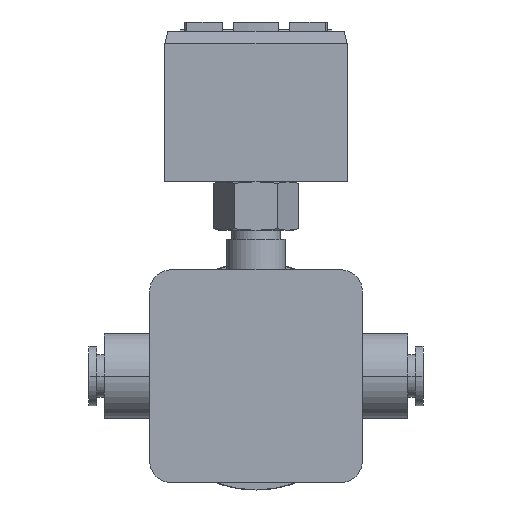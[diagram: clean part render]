
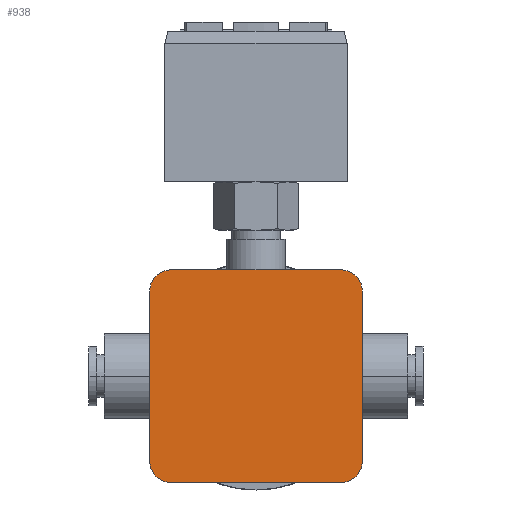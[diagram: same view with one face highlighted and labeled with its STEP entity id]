
A CAD part, front view. The second image highlights one B-rep face of the part: STEP entity #938.
In plain terms, the highlighted planar face has unit normal (0, -1, 0).
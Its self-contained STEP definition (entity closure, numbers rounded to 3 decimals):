
#78 = DIRECTION ( 'NONE',  ( 1., 0., 0. ) ) ;
#682 = ORIENTED_EDGE ( 'NONE', *, *, #3288, .F. ) ;
#832 = CARTESIAN_POINT ( 'NONE',  ( 17.5, -21., 14. ) ) ;
#938 = ADVANCED_FACE ( 'NONE', ( #9146 ), #1819, .F. ) ;
#1131 = CARTESIAN_POINT ( 'NONE',  ( 17.5, -21., 14. ) ) ;
#1132 = ORIENTED_EDGE ( 'NONE', *, *, #2328, .F. ) ;
#1147 = DIRECTION ( 'NONE',  ( 1., 0., 0. ) ) ;
#1149 = CARTESIAN_POINT ( 'NONE',  ( -17.5, -21., 14. ) ) ;
#1465 = CARTESIAN_POINT ( 'NONE',  ( 14., -21., -17.5 ) ) ;
#1569 = CARTESIAN_POINT ( 'NONE',  ( -14., -21., 17.5 ) ) ;
#1757 = EDGE_CURVE ( 'NONE', #7984, #3694, #4811, .T. ) ;
#1819 = PLANE ( 'NONE',  #6041 ) ;
#2216 = CIRCLE ( 'NONE', #10652, 3.5 ) ;
#2322 = CARTESIAN_POINT ( 'NONE',  ( 14., -21., 17.5 ) ) ;
#2328 = EDGE_CURVE ( 'NONE', #3832, #2704, #3002, .T. ) ;
#2416 = EDGE_CURVE ( 'NONE', #2704, #5976, #5053, .T. ) ;
#2631 = DIRECTION ( 'NONE',  ( 1., 0., 0. ) ) ;
#2646 = EDGE_CURVE ( 'NONE', #4552, #4117, #6127, .T. ) ;
#2704 = VERTEX_POINT ( 'NONE', #2322 ) ;
#2851 = EDGE_CURVE ( 'NONE', #4117, #3832, #5589, .T. ) ;
#3000 = AXIS2_PLACEMENT_3D ( 'NONE', #5124, #10701, #7897 ) ;
#3002 = LINE ( 'NONE', #10149, #7509 ) ;
#3262 = DIRECTION ( 'NONE',  ( 0., 0., 1. ) ) ;
#3288 = EDGE_CURVE ( 'NONE', #5976, #7984, #3811, .T. ) ;
#3584 = VERTEX_POINT ( 'NONE', #10836 ) ;
#3626 = CARTESIAN_POINT ( 'NONE',  ( -14., -21., -14. ) ) ;
#3694 = VERTEX_POINT ( 'NONE', #4776 ) ;
#3811 = LINE ( 'NONE', #1131, #4849 ) ;
#3832 = VERTEX_POINT ( 'NONE', #1569 ) ;
#3938 = CARTESIAN_POINT ( 'NONE',  ( -17.5, -21., -14. ) ) ;
#4117 = VERTEX_POINT ( 'NONE', #1149 ) ;
#4552 = VERTEX_POINT ( 'NONE', #3938 ) ;
#4755 = CARTESIAN_POINT ( 'NONE',  ( 14., -21., -14. ) ) ;
#4776 = CARTESIAN_POINT ( 'NONE',  ( 14., -21., -17.5 ) ) ;
#4786 = CARTESIAN_POINT ( 'NONE',  ( 17.5, -21., -14. ) ) ;
#4801 = DIRECTION ( 'NONE',  ( 1., 0., 0. ) ) ;
#4811 = CIRCLE ( 'NONE', #5552, 3.5 ) ;
#4849 = VECTOR ( 'NONE', #8396, 1000. ) ;
#5053 = CIRCLE ( 'NONE', #3000, 3.5 ) ;
#5124 = CARTESIAN_POINT ( 'NONE',  ( 14., -21., 14. ) ) ;
#5552 = AXIS2_PLACEMENT_3D ( 'NONE', #4755, #8117, #7237 ) ;
#5589 = CIRCLE ( 'NONE', #7098, 3.5 ) ;
#5917 = LINE ( 'NONE', #1465, #8287 ) ;
#5973 = CARTESIAN_POINT ( 'NONE',  ( -14., -21., -14. ) ) ;
#5976 = VERTEX_POINT ( 'NONE', #832 ) ;
#6041 = AXIS2_PLACEMENT_3D ( 'NONE', #3626, #8968, #78 ) ;
#6046 = ORIENTED_EDGE ( 'NONE', *, *, #2646, .F. ) ;
#6127 = LINE ( 'NONE', #11316, #7857 ) ;
#6133 = ORIENTED_EDGE ( 'NONE', *, *, #1757, .F. ) ;
#6584 = EDGE_CURVE ( 'NONE', #3694, #3584, #5917, .T. ) ;
#7098 = AXIS2_PLACEMENT_3D ( 'NONE', #9233, #11120, #1147 ) ;
#7237 = DIRECTION ( 'NONE',  ( 1., 0., 0. ) ) ;
#7330 = ORIENTED_EDGE ( 'NONE', *, *, #7654, .F. ) ;
#7509 = VECTOR ( 'NONE', #4801, 1000. ) ;
#7654 = EDGE_CURVE ( 'NONE', #3584, #4552, #2216, .T. ) ;
#7857 = VECTOR ( 'NONE', #3262, 1000. ) ;
#7897 = DIRECTION ( 'NONE',  ( 1., 0., 0. ) ) ;
#7984 = VERTEX_POINT ( 'NONE', #4786 ) ;
#8117 = DIRECTION ( 'NONE',  ( 0., 1., 0. ) ) ;
#8287 = VECTOR ( 'NONE', #9623, 1000. ) ;
#8396 = DIRECTION ( 'NONE',  ( 0., 0., -1. ) ) ;
#8517 = ORIENTED_EDGE ( 'NONE', *, *, #2851, .F. ) ;
#8764 = ORIENTED_EDGE ( 'NONE', *, *, #2416, .F. ) ;
#8968 = DIRECTION ( 'NONE',  ( 0., 1., 0. ) ) ;
#9074 = EDGE_LOOP ( 'NONE', ( #7330, #9480, #6133, #682, #8764, #1132, #8517, #6046 ) ) ;
#9146 = FACE_OUTER_BOUND ( 'NONE', #9074, .T. ) ;
#9233 = CARTESIAN_POINT ( 'NONE',  ( -14., -21., 14. ) ) ;
#9480 = ORIENTED_EDGE ( 'NONE', *, *, #6584, .F. ) ;
#9623 = DIRECTION ( 'NONE',  ( -1., 0., 0. ) ) ;
#10149 = CARTESIAN_POINT ( 'NONE',  ( -14., -21., 17.5 ) ) ;
#10652 = AXIS2_PLACEMENT_3D ( 'NONE', #5973, #11388, #2631 ) ;
#10701 = DIRECTION ( 'NONE',  ( 0., 1., 0. ) ) ;
#10836 = CARTESIAN_POINT ( 'NONE',  ( -14., -21., -17.5 ) ) ;
#11120 = DIRECTION ( 'NONE',  ( 0., 1., 0. ) ) ;
#11316 = CARTESIAN_POINT ( 'NONE',  ( -17.5, -21., -14. ) ) ;
#11388 = DIRECTION ( 'NONE',  ( 0., 1., 0. ) ) ;
